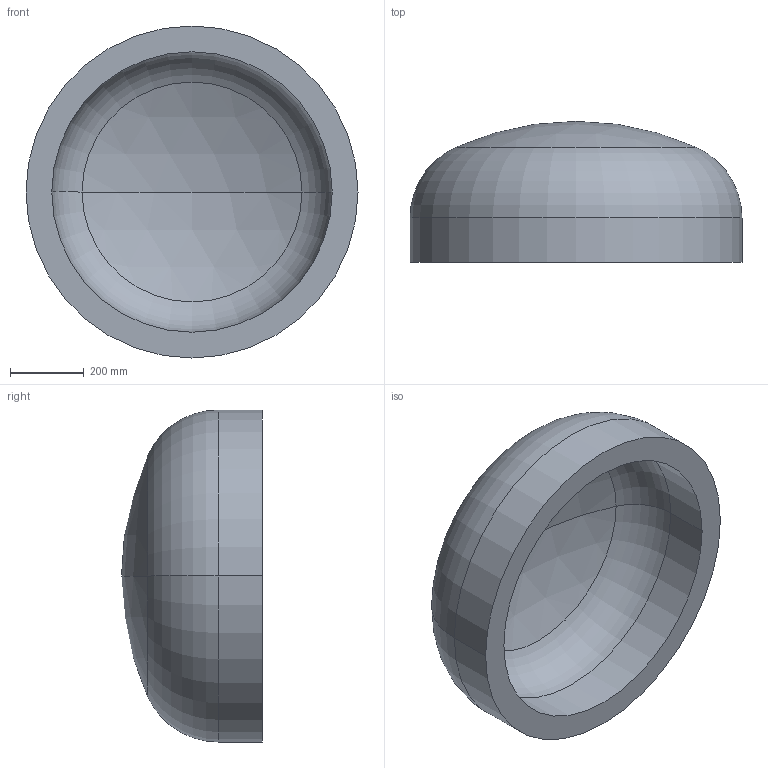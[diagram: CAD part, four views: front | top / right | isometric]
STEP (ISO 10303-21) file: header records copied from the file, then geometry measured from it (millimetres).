
FILE_DESCRIPTION (( 'STEP AP203' ), '1' );
FILE_NAME ('DIN 28013 Korbbogenform_-_Boden DIN 28013 - 900 x 120 - I - s=70.step', '2016-07-01T08:35:19', ( '' ), ( '' ), 'SwSTEP 2.0', 'SolidWorks 2013', '' );
FILE_SCHEMA (( 'CONFIG_CONTROL_DESIGN' ));
Length unit declared in the file: millimetre
Products named in the file (1): DIN 28013 Korbbogenform_-_Boden DIN 28013 - 900 x 120 - I - s=70
Bounding box: 900 x 381.98 x 900 mm (x, y, z)
Volume: 77951915.7 mm3; surface area: 2419986.3 mm2
Topology: 1 solids, 1 shells, 13 faces, 24 edges, 14 vertices
Faces by surface type: torus 4, cylinder 4, sphere 4, plane 1
Entity records: 407 total; most frequent: DIRECTION 72, CARTESIAN_POINT 52, ORIENTED_EDGE 48, AXIS2_PLACEMENT_3D 34, EDGE_CURVE 24, CIRCLE 20, VERTEX_POINT 14, EDGE_LOOP 14
